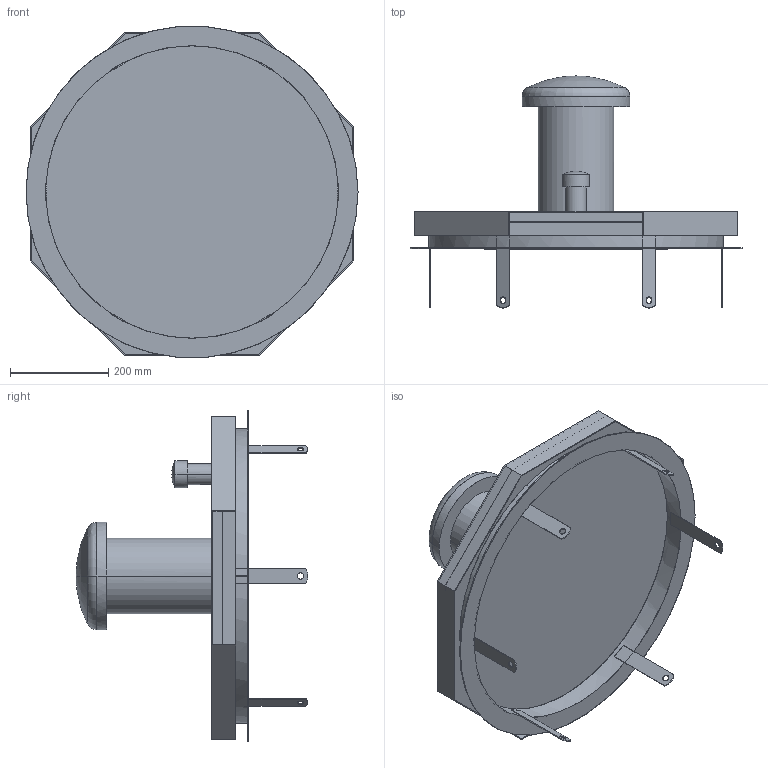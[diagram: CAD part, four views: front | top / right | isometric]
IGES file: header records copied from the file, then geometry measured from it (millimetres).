
Start section:  PTC IGES file: 017_000107.igs
Global section: file name: 017_000107.igs; native system: Creo Parametric by Parametric Technology Corporation; preprocessor: 2017170; author: set; organization: Unknown; date: 20180906.115307; units: millimetre
Bounding box: 675 x 471.25 x 673.23 mm (x, y, z)
Surface area: 2165733.3 mm2 (no closed solid volume)
Topology: 0 solids, 0 shells, 102 faces, 536 edges, 532 vertices
Faces by surface type: bspline 64, revolution 38
